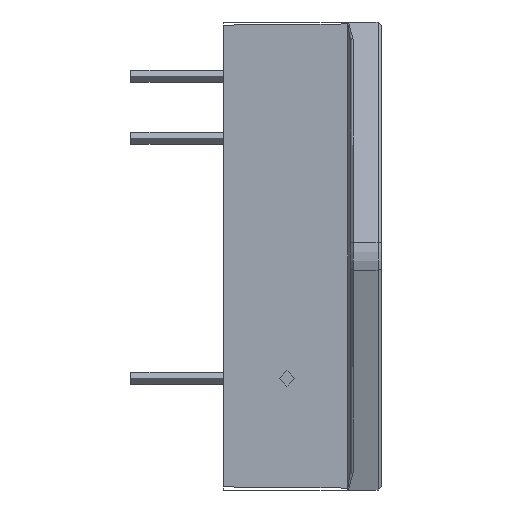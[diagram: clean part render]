
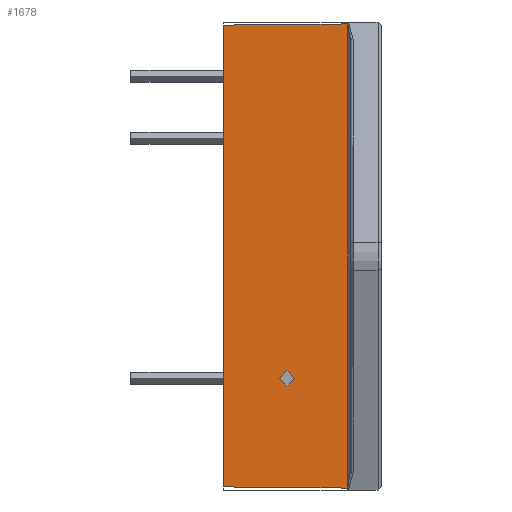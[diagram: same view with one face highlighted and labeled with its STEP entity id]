
A CAD part, left-side view. The second image highlights one B-rep face of the part: STEP entity #1678.
In plain terms, the highlighted planar face has unit normal (-1, 0, 0).
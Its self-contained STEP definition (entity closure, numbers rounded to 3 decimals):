
#1678=ADVANCED_FACE('',(#3475,#3477),#3479,.T.);
#3475=FACE_BOUND('',#3476,.T.);
#3476=EDGE_LOOP('',(#5063,#5064,#5065,#5066));
#3477=FACE_BOUND('',#3478,.T.);
#3478=EDGE_LOOP('',(#5067));
#3479=PLANE('',#3480);
#3480=AXIS2_PLACEMENT_3D('',#3481,#3482,#3483);
#3481=CARTESIAN_POINT('',(-20.,2.,-15.1));
#3482=DIRECTION('',(-1.,0.,0.));
#3483=DIRECTION('',(0.,0.,1.));
#5063=ORIENTED_EDGE('',*,*,#5818,.F.);
#5064=ORIENTED_EDGE('',*,*,#5819,.T.);
#5065=ORIENTED_EDGE('',*,*,#5820,.T.);
#5066=ORIENTED_EDGE('',*,*,#5821,.F.);
#5067=ORIENTED_EDGE('',*,*,#5822,.T.);
#5818=EDGE_CURVE('',#6810,#6811,#6812,.T.);
#5819=EDGE_CURVE('',#6810,#6813,#6814,.T.);
#5820=EDGE_CURVE('',#6813,#6815,#6816,.T.);
#5821=EDGE_CURVE('',#6811,#6815,#6817,.T.);
#5822=EDGE_CURVE('',#6818,#6818,#6819,.F.);
#6810=VERTEX_POINT('',#9161);
#6811=VERTEX_POINT('',#9162);
#6812=LINE('',#9163,#9164);
#6813=VERTEX_POINT('',#9166);
#6814=LINE('',#9167,#9168);
#6815=VERTEX_POINT('',#9170);
#6816=LINE('',#9171,#9172);
#6817=LINE('',#9174,#9175);
#6818=VERTEX_POINT('',#9177);
#6819=CIRCLE('',#9178,0.5);
#9161=CARTESIAN_POINT('',(-20.,2.2,-14.975));
#9162=CARTESIAN_POINT('',(-20.,10.15,-14.9));
#9163=CARTESIAN_POINT('',(-20.,2.2,-14.9));
#9164=VECTOR('',#9165,1.);
#9165=DIRECTION('',(0.,1.,0.));
#9166=CARTESIAN_POINT('',(-20.,2.2,14.975));
#9167=CARTESIAN_POINT('',(-20.,2.2,-14.9));
#9168=VECTOR('',#9169,1.);
#9169=DIRECTION('',(0.,0.,1.));
#9170=CARTESIAN_POINT('',(-20.,10.15,14.9));
#9171=CARTESIAN_POINT('',(-20.,2.2,14.9));
#9172=VECTOR('',#9173,1.);
#9173=DIRECTION('',(0.,1.,0.));
#9174=CARTESIAN_POINT('',(-20.,10.15,-14.9));
#9175=VECTOR('',#9176,1.);
#9176=DIRECTION('',(0.,0.,1.));
#9177=CARTESIAN_POINT('',(-20.,6.075,-8.4));
#9178=AXIS2_PLACEMENT_3D('',#9179,#9180,#9181);
#9179=CARTESIAN_POINT('',(-20.,6.075,-7.9));
#9180=DIRECTION('',(-1.,0.,0.));
#9181=DIRECTION('',(0.,0.,-1.));
